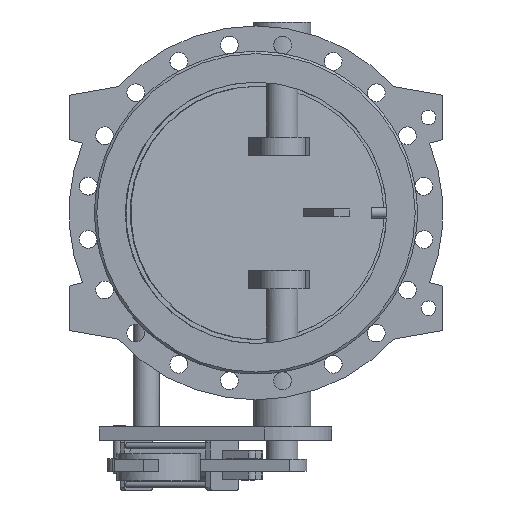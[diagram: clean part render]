
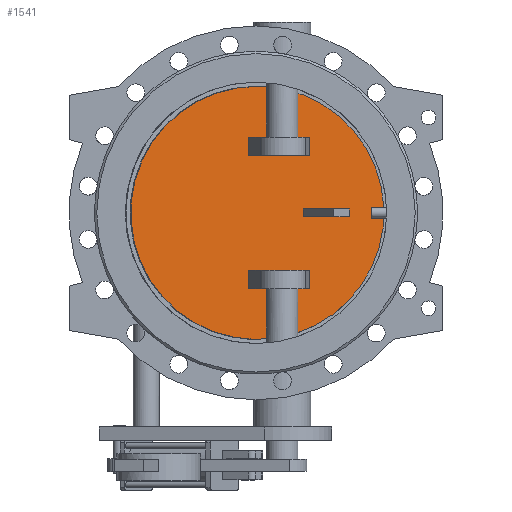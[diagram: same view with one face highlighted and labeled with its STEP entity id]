
A CAD part, front view. The second image highlights one B-rep face of the part: STEP entity #1541.
In plain terms, the highlighted planar face has unit normal (0.131, -0.991, 0).
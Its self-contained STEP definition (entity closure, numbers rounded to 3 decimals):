
#1541=ADVANCED_FACE('',(#3404,#3406,#3408,#3410),#3412,.T.);
#3404=FACE_BOUND('',#3405,.T.);
#3405=EDGE_LOOP('',(#4799));
#3406=FACE_BOUND('',#3407,.T.);
#3407=EDGE_LOOP('',(#4800,#4801,#4802,#4803));
#3408=FACE_BOUND('',#3409,.T.);
#3409=EDGE_LOOP('',(#4804,#4805,#4806,#4807));
#3410=FACE_BOUND('',#3411,.T.);
#3411=EDGE_LOOP('',(#4808,#4809,#4810,#4811));
#3412=PLANE('',#3413);
#3413=AXIS2_PLACEMENT_3D('',#3414,#3415,#3416);
#3414=CARTESIAN_POINT('',(-1.272,9.66,0.));
#3415=DIRECTION('',(0.131,-0.991,0.));
#3416=DIRECTION('',(0.,0.,-1.));
#4799=ORIENTED_EDGE('',*,*,#5427,.T.);
#4800=ORIENTED_EDGE('',*,*,#5451,.F.);
#4801=ORIENTED_EDGE('',*,*,#5452,.F.);
#4802=ORIENTED_EDGE('',*,*,#5453,.F.);
#4803=ORIENTED_EDGE('',*,*,#5454,.F.);
#4804=ORIENTED_EDGE('',*,*,#5455,.F.);
#4805=ORIENTED_EDGE('',*,*,#5456,.F.);
#4806=ORIENTED_EDGE('',*,*,#5457,.F.);
#4807=ORIENTED_EDGE('',*,*,#5458,.F.);
#4808=ORIENTED_EDGE('',*,*,#5459,.F.);
#4809=ORIENTED_EDGE('',*,*,#5460,.F.);
#4810=ORIENTED_EDGE('',*,*,#5461,.F.);
#4811=ORIENTED_EDGE('',*,*,#5462,.F.);
#5427=EDGE_CURVE('',#6345,#6345,#6346,.T.);
#5451=EDGE_CURVE('',#6387,#6388,#6389,.T.);
#5452=EDGE_CURVE('',#6390,#6387,#6391,.F.);
#5453=EDGE_CURVE('',#6392,#6390,#6393,.T.);
#5454=EDGE_CURVE('',#6388,#6392,#6394,.T.);
#5455=EDGE_CURVE('',#6395,#6396,#6397,.F.);
#5456=EDGE_CURVE('',#6398,#6395,#6399,.T.);
#5457=EDGE_CURVE('',#6400,#6398,#6401,.T.);
#5458=EDGE_CURVE('',#6396,#6400,#6402,.T.);
#5459=EDGE_CURVE('',#6403,#6404,#6405,.T.);
#5460=EDGE_CURVE('',#6406,#6403,#6407,.F.);
#5461=EDGE_CURVE('',#6408,#6406,#6409,.F.);
#5462=EDGE_CURVE('',#6404,#6408,#6410,.F.);
#6345=VERTEX_POINT('',#10874);
#6346=B_SPLINE_CURVE_WITH_KNOTS('',3,
(#10875,#10876,#10877,#10878,#10879,#10880,#10881,#10882,#10883,#10884,#10885,#10886,
#10887,#10888,#10889,#10890,#10891,#10892,#10893,#10894,#10895,#10896,#10897,#10898,
#10899,#10900,#10901,#10902,#10903,#10904,#10905,#10906,#10907,#10908,#10909,#10910,
#10911,#10912,#10913,#10914,#10915,#10916,#10917,#10918,#10919,#10920,#10921,#10922,
#10923,#10924,#10925),
.UNSPECIFIED.,.T.,.F.,
(4,1,1,1,1,1,1,1,1,1,1,1,1,1,1,1,1,1,1,1,1,1,1,1,1,1,1,1,1,1,1,1,1,1,1,1,1,1,1,1,
1,1,1,1,1,1,1,1,4),
(0.,0.021,0.042,0.063,0.084,
0.105,0.126,0.147,0.168,0.189,
0.211,0.232,0.253,0.274,0.295,
0.316,0.337,0.358,0.379,0.4,
0.421,0.442,0.463,0.484,0.505,
0.526,0.548,0.569,0.59,0.611,
0.632,0.653,0.674,0.695,0.716,
0.737,0.758,0.779,0.8,0.821,
0.843,0.864,0.885,0.906,0.927,
0.948,0.969,0.986,1.),
.UNSPECIFIED.);
#6387=VERTEX_POINT('',#11572);
#6388=VERTEX_POINT('',#11573);
#6389=LINE('',#11574,#11575);
#6390=VERTEX_POINT('',#11577);
#6391=LINE('',#11578,#11579);
#6392=VERTEX_POINT('',#11581);
#6393=LINE('',#11582,#11583);
#6394=LINE('',#11585,#11586);
#6395=VERTEX_POINT('',#11588);
#6396=VERTEX_POINT('',#11589);
#6397=LINE('',#11590,#11591);
#6398=VERTEX_POINT('',#11593);
#6399=LINE('',#11594,#11595);
#6400=VERTEX_POINT('',#11597);
#6401=LINE('',#11598,#11599);
#6402=LINE('',#11601,#11602);
#6403=VERTEX_POINT('',#11604);
#6404=VERTEX_POINT('',#11605);
#6405=LINE('',#11606,#11607);
#6406=VERTEX_POINT('',#11609);
#6407=LINE('',#11610,#11611);
#6408=VERTEX_POINT('',#11613);
#6409=LINE('',#11614,#11615);
#6410=LINE('',#11617,#11618);
#10874=CARTESIAN_POINT('',(2.611,10.171,242.));
#10875=CARTESIAN_POINT('',(2.611,10.171,242.));
#10876=CARTESIAN_POINT('',(-8.021,8.771,242.));
#10877=CARTESIAN_POINT('',(-29.311,5.969,240.596));
#10878=CARTESIAN_POINT('',(-60.73,1.832,234.3));
#10879=CARTESIAN_POINT('',(-91.089,-2.165,223.903));
#10880=CARTESIAN_POINT('',(-119.83,-5.949,209.58));
#10881=CARTESIAN_POINT('',(-146.424,-9.45,191.594));
#10882=CARTESIAN_POINT('',(-170.413,-12.608,170.255));
#10883=CARTESIAN_POINT('',(-191.375,-15.368,145.938));
#10884=CARTESIAN_POINT('',(-208.943,-17.681,119.068));
#10885=CARTESIAN_POINT('',(-222.811,-19.506,90.115));
#10886=CARTESIAN_POINT('',(-232.736,-20.813,59.585));
#10887=CARTESIAN_POINT('',(-238.543,-21.577,28.012));
#10888=CARTESIAN_POINT('',(-240.132,-21.787,-4.05));
#10889=CARTESIAN_POINT('',(-237.474,-21.437,-36.041));
#10890=CARTESIAN_POINT('',(-230.616,-20.534,-67.401));
#10891=CARTESIAN_POINT('',(-219.679,-19.094,-97.581));
#10892=CARTESIAN_POINT('',(-204.855,-17.142,-126.053));
#10893=CARTESIAN_POINT('',(-186.401,-14.713,-152.321));
#10894=CARTESIAN_POINT('',(-164.642,-11.848,-175.924));
#10895=CARTESIAN_POINT('',(-139.958,-8.598,-196.45));
#10896=CARTESIAN_POINT('',(-112.779,-5.02,-213.541));
#10897=CARTESIAN_POINT('',(-83.582,-1.176,-226.897));
#10898=CARTESIAN_POINT('',(-52.876,2.866,-236.284));
#10899=CARTESIAN_POINT('',(-21.199,7.037,-241.538));
#10900=CARTESIAN_POINT('',(10.895,11.262,-242.566));
#10901=CARTESIAN_POINT('',(42.844,15.468,-239.352));
#10902=CARTESIAN_POINT('',(74.089,19.581,-231.95));
#10903=CARTESIAN_POINT('',(104.084,23.53,-220.49));
#10904=CARTESIAN_POINT('',(132.303,27.245,-205.174));
#10905=CARTESIAN_POINT('',(158.253,30.662,-186.269));
#10906=CARTESIAN_POINT('',(181.481,33.72,-164.105));
#10907=CARTESIAN_POINT('',(201.58,36.366,-139.07));
#10908=CARTESIAN_POINT('',(218.198,38.554,-111.603));
#10909=CARTESIAN_POINT('',(231.046,40.245,-82.182));
#10910=CARTESIAN_POINT('',(239.897,41.41,-51.324));
#10911=CARTESIAN_POINT('',(244.597,42.029,-19.568));
#10912=CARTESIAN_POINT('',(245.063,42.091,12.53));
#10913=CARTESIAN_POINT('',(241.288,41.594,44.409));
#10914=CARTESIAN_POINT('',(233.338,40.547,75.509));
#10915=CARTESIAN_POINT('',(221.353,38.969,105.289));
#10916=CARTESIAN_POINT('',(205.542,36.888,133.226));
#10917=CARTESIAN_POINT('',(186.182,34.339,158.832));
#10918=CARTESIAN_POINT('',(163.61,31.367,181.661));
#10919=CARTESIAN_POINT('',(138.229,28.026,201.308));
#10920=CARTESIAN_POINT('',(110.512,24.377,217.415));
#10921=CARTESIAN_POINT('',(80.861,20.473,229.756));
#10922=CARTESIAN_POINT('',(51.618,16.623,237.597));
#10923=CARTESIAN_POINT('',(25.327,13.162,241.321));
#10924=CARTESIAN_POINT('',(9.553,11.085,242.));
#10925=CARTESIAN_POINT('',(2.611,10.171,242.));
#11572=CARTESIAN_POINT('',(164.358,31.466,-7.5));
#11573=CARTESIAN_POINT('',(164.358,31.466,7.5));
#11574=CARTESIAN_POINT('',(164.358,31.466,-7.5));
#11575=VECTOR('',#11576,1.);
#11576=DIRECTION('',(0.,0.,1.));
#11577=CARTESIAN_POINT('',(90.,21.676,-7.5));
#11578=CARTESIAN_POINT('',(164.358,31.466,-7.5));
#11579=VECTOR('',#11580,1.);
#11580=DIRECTION('',(-0.991,-0.131,0.));
#11581=CARTESIAN_POINT('',(90.,21.676,7.5));
#11582=CARTESIAN_POINT('',(90.,21.676,7.5));
#11583=VECTOR('',#11584,1.);
#11584=DIRECTION('',(0.,0.,-1.));
#11585=CARTESIAN_POINT('',(164.358,31.466,7.5));
#11586=VECTOR('',#11587,1.);
#11587=DIRECTION('',(-0.991,-0.131,0.));
#11588=CARTESIAN_POINT('',(-14.418,7.929,-145.));
#11589=CARTESIAN_POINT('',(102.407,23.31,-145.));
#11590=CARTESIAN_POINT('',(102.407,23.31,-145.));
#11591=VECTOR('',#11592,1.);
#11592=DIRECTION('',(-0.991,-0.131,0.));
#11593=CARTESIAN_POINT('',(-14.418,7.929,-110.));
#11594=CARTESIAN_POINT('',(-14.418,7.929,-110.));
#11595=VECTOR('',#11596,1.);
#11596=DIRECTION('',(0.,0.,-1.));
#11597=CARTESIAN_POINT('',(102.407,23.31,-110.));
#11598=CARTESIAN_POINT('',(102.407,23.31,-110.));
#11599=VECTOR('',#11600,1.);
#11600=DIRECTION('',(-0.991,-0.131,0.));
#11601=CARTESIAN_POINT('',(102.407,23.31,-145.));
#11602=VECTOR('',#11603,1.);
#11603=DIRECTION('',(0.,0.,1.));
#11604=CARTESIAN_POINT('',(102.407,23.31,145.));
#11605=CARTESIAN_POINT('',(-14.418,7.929,145.));
#11606=CARTESIAN_POINT('',(102.407,23.31,145.));
#11607=VECTOR('',#11608,1.);
#11608=DIRECTION('',(-0.991,-0.131,0.));
#11609=CARTESIAN_POINT('',(102.407,23.31,110.));
#11610=CARTESIAN_POINT('',(102.407,23.31,145.));
#11611=VECTOR('',#11612,1.);
#11612=DIRECTION('',(0.,0.,-1.));
#11613=CARTESIAN_POINT('',(-14.418,7.929,110.));
#11614=CARTESIAN_POINT('',(102.407,23.31,110.));
#11615=VECTOR('',#11616,1.);
#11616=DIRECTION('',(-0.991,-0.131,0.));
#11617=CARTESIAN_POINT('',(-14.418,7.929,110.));
#11618=VECTOR('',#11619,1.);
#11619=DIRECTION('',(0.,0.,1.));
